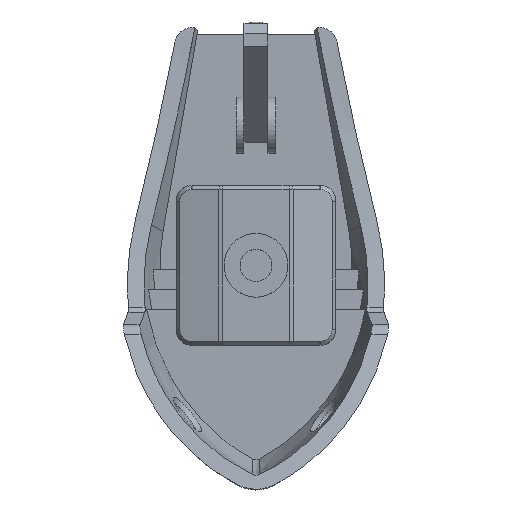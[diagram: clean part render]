
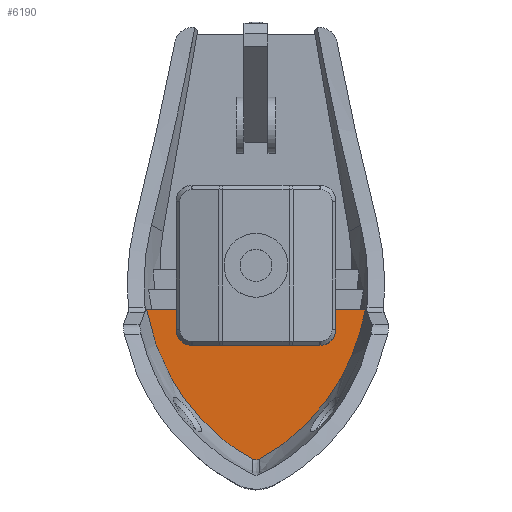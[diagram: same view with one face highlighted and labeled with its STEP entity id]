
A CAD part, top view. The second image highlights one B-rep face of the part: STEP entity #6190.
In plain terms, the highlighted planar face has unit normal (0, 0, 1).
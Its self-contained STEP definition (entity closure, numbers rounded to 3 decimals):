
#357=PLANE('',#6616);
#713=LINE('',#10777,#1172);
#722=LINE('',#10797,#1181);
#750=LINE('',#10879,#1209);
#751=LINE('',#10903,#1210);
#752=LINE('',#10905,#1211);
#753=LINE('',#10907,#1212);
#754=LINE('',#10908,#1213);
#1172=VECTOR('',#7370,10.);
#1181=VECTOR('',#7385,10.);
#1209=VECTOR('',#7451,10.);
#1210=VECTOR('',#7452,10.);
#1211=VECTOR('',#7453,10.);
#1212=VECTOR('',#7454,10.);
#1213=VECTOR('',#7455,10.);
#1596=FACE_OUTER_BOUND('',#1965,.T.);
#1965=EDGE_LOOP('',(#4558,#4559,#4560,#4561,#4562,#4563,#4564,#4565,#4566,
#4567));
#2278=B_SPLINE_CURVE_WITH_KNOTS('',3,(#9517,#9518,#9519,#9520,#9521,#9522,
#9523,#9524,#9525,#9526,#9527),.UNSPECIFIED.,.F.,.F.,(4,2,2,3,4),(0.133,
0.242,0.547,0.875,0.925),
 .UNSPECIFIED.);
#2295=B_SPLINE_CURVE_WITH_KNOTS('',3,(#9924,#9925,#9926,#9927,#9928,#9929,
#9930,#9931,#9932,#9933,#9934,#9935,#9936,#9937,#9938),.UNSPECIFIED.,.F.,
 .F.,(4,3,2,2,2,2,4),(1.135,1.29,2.146,
3.075,3.442,3.5,3.525),
 .UNSPECIFIED.);
#2338=B_SPLINE_CURVE_WITH_KNOTS('',3,(#10880,#10881,#10882,#10883,#10884,
#10885,#10886,#10887,#10888,#10889,#10890,#10891,#10892,#10893,#10894,#10895,
#10896,#10897,#10898,#10899,#10900,#10901),.UNSPECIFIED.,.F.,.F.,(4,3,3,
3,3,3,3,4),(0.,0.013,0.027,0.037,
0.051,0.064,0.078,0.092),
 .UNSPECIFIED.);
#2532=VERTEX_POINT('',#9511);
#2533=VERTEX_POINT('',#9516);
#2549=VERTEX_POINT('',#9916);
#2550=VERTEX_POINT('',#9923);
#2690=VERTEX_POINT('',#10774);
#2691=VERTEX_POINT('',#10776);
#2699=VERTEX_POINT('',#10795);
#2735=VERTEX_POINT('',#10902);
#2736=VERTEX_POINT('',#10904);
#2737=VERTEX_POINT('',#10906);
#3152=EDGE_CURVE('',#2533,#2532,#2278,.T.);
#3171=EDGE_CURVE('',#2550,#2549,#2295,.T.);
#3375=EDGE_CURVE('',#2691,#2690,#713,.T.);
#3386=EDGE_CURVE('',#2690,#2699,#722,.T.);
#3427=EDGE_CURVE('',#2550,#2699,#750,.T.);
#3428=EDGE_CURVE('',#2549,#2533,#2338,.T.);
#3429=EDGE_CURVE('',#2735,#2532,#751,.T.);
#3430=EDGE_CURVE('',#2735,#2736,#752,.T.);
#3431=EDGE_CURVE('',#2736,#2737,#753,.T.);
#3432=EDGE_CURVE('',#2737,#2691,#754,.T.);
#4558=ORIENTED_EDGE('',*,*,#3386,.T.);
#4559=ORIENTED_EDGE('',*,*,#3427,.F.);
#4560=ORIENTED_EDGE('',*,*,#3171,.T.);
#4561=ORIENTED_EDGE('',*,*,#3428,.T.);
#4562=ORIENTED_EDGE('',*,*,#3152,.T.);
#4563=ORIENTED_EDGE('',*,*,#3429,.F.);
#4564=ORIENTED_EDGE('',*,*,#3430,.T.);
#4565=ORIENTED_EDGE('',*,*,#3431,.T.);
#4566=ORIENTED_EDGE('',*,*,#3432,.T.);
#4567=ORIENTED_EDGE('',*,*,#3375,.T.);
#6190=ADVANCED_FACE('',(#1596),#357,.F.);
#6616=AXIS2_PLACEMENT_3D('',#10878,#7449,#7450);
#7370=DIRECTION('',(-0.707,0.707,0.));
#7385=DIRECTION('',(0.,1.,0.));
#7449=DIRECTION('center_axis',(0.,0.,-1.));
#7450=DIRECTION('ref_axis',(0.,1.,0.));
#7451=DIRECTION('',(1.,0.,0.));
#7452=DIRECTION('',(1.,0.,0.));
#7453=DIRECTION('',(0.,-1.,0.));
#7454=DIRECTION('',(-0.707,-0.707,0.));
#7455=DIRECTION('',(-1.,0.,0.));
#9511=CARTESIAN_POINT('',(13.687,-5.5,15.));
#9516=CARTESIAN_POINT('',(0.438,-24.171,15.));
#9517=CARTESIAN_POINT('Ctrl Pts',(0.438,-24.171,15.));
#9518=CARTESIAN_POINT('Ctrl Pts',(0.82,-23.968,15.));
#9519=CARTESIAN_POINT('Ctrl Pts',(1.575,-23.556,15.));
#9520=CARTESIAN_POINT('Ctrl Pts',(5.144,-21.161,15.));
#9521=CARTESIAN_POINT('Ctrl Pts',(7.403,-18.892,15.));
#9522=CARTESIAN_POINT('Ctrl Pts',(11.154,-13.476,15.));
#9523=CARTESIAN_POINT('Ctrl Pts',(12.549,-10.317,15.));
#9524=CARTESIAN_POINT('Ctrl Pts',(13.361,-7.,15.));
#9525=CARTESIAN_POINT('Ctrl Pts',(13.483,-6.503,15.));
#9526=CARTESIAN_POINT('Ctrl Pts',(13.592,-6.003,15.));
#9527=CARTESIAN_POINT('Ctrl Pts',(13.687,-5.5,15.));
#9916=CARTESIAN_POINT('',(-0.438,-24.171,15.));
#9923=CARTESIAN_POINT('',(-13.687,-5.5,15.));
#9924=CARTESIAN_POINT('Ctrl Pts',(-13.687,-5.5,15.));
#9925=CARTESIAN_POINT('Ctrl Pts',(-13.592,-6.003,15.));
#9926=CARTESIAN_POINT('Ctrl Pts',(-13.483,-6.503,15.));
#9927=CARTESIAN_POINT('Ctrl Pts',(-13.361,-7.,15.));
#9928=CARTESIAN_POINT('Ctrl Pts',(-12.688,-9.748,15.));
#9929=CARTESIAN_POINT('Ctrl Pts',(-11.614,-12.392,15.));
#9930=CARTESIAN_POINT('Ctrl Pts',(-8.57,-17.457,15.));
#9931=CARTESIAN_POINT('Ctrl Pts',(-6.547,-19.809,15.));
#9932=CARTESIAN_POINT('Ctrl Pts',(-3.199,-22.485,15.));
#9933=CARTESIAN_POINT('Ctrl Pts',(-2.197,-23.171,15.));
#9934=CARTESIAN_POINT('Ctrl Pts',(-0.983,-23.872,
15.));
#9935=CARTESIAN_POINT('Ctrl Pts',(-0.817,-23.966,
15.));
#9936=CARTESIAN_POINT('Ctrl Pts',(-0.578,-24.096,
15.));
#9937=CARTESIAN_POINT('Ctrl Pts',(-0.508,-24.134,
15.));
#9938=CARTESIAN_POINT('Ctrl Pts',(-0.438,-24.171,
15.));
#10774=CARTESIAN_POINT('',(-6.809,-5.811,15.));
#10776=CARTESIAN_POINT('',(-5.805,-6.815,15.));
#10777=CARTESIAN_POINT('',(1.191,-13.811,15.));
#10795=CARTESIAN_POINT('',(-6.809,-5.5,15.));
#10797=CARTESIAN_POINT('',(-6.809,-15.,15.));
#10878=CARTESIAN_POINT('Origin',(0.,-30.,
15.));
#10879=CARTESIAN_POINT('',(0.,-5.5,15.));
#10880=CARTESIAN_POINT('Ctrl Pts',(-0.438,-24.171,
15.));
#10881=CARTESIAN_POINT('Ctrl Pts',(-0.398,-24.192,
15.));
#10882=CARTESIAN_POINT('Ctrl Pts',(-0.358,-24.21,
15.));
#10883=CARTESIAN_POINT('Ctrl Pts',(-0.316,-24.225,
15.));
#10884=CARTESIAN_POINT('Ctrl Pts',(-0.274,-24.24,
15.));
#10885=CARTESIAN_POINT('Ctrl Pts',(-0.232,-24.251,
15.));
#10886=CARTESIAN_POINT('Ctrl Pts',(-0.188,-24.26,
15.));
#10887=CARTESIAN_POINT('Ctrl Pts',(-0.154,-24.267,15.001));
#10888=CARTESIAN_POINT('Ctrl Pts',(-0.119,-24.272,
15.001));
#10889=CARTESIAN_POINT('Ctrl Pts',(-0.083,-24.276,
15.001));
#10890=CARTESIAN_POINT('Ctrl Pts',(-0.039,-24.28,
15.001));
#10891=CARTESIAN_POINT('Ctrl Pts',(0.006,-24.28,
15.001));
#10892=CARTESIAN_POINT('Ctrl Pts',(0.051,-24.278,
15.001));
#10893=CARTESIAN_POINT('Ctrl Pts',(0.095,-24.276,
15.001));
#10894=CARTESIAN_POINT('Ctrl Pts',(0.14,-24.27,
15.001));
#10895=CARTESIAN_POINT('Ctrl Pts',(0.184,-24.261,
15.));
#10896=CARTESIAN_POINT('Ctrl Pts',(0.228,-24.252,
15.));
#10897=CARTESIAN_POINT('Ctrl Pts',(0.272,-24.24,
15.));
#10898=CARTESIAN_POINT('Ctrl Pts',(0.314,-24.225,
15.));
#10899=CARTESIAN_POINT('Ctrl Pts',(0.356,-24.21,
15.));
#10900=CARTESIAN_POINT('Ctrl Pts',(0.398,-24.192,
15.));
#10901=CARTESIAN_POINT('Ctrl Pts',(0.438,-24.171,
15.));
#10902=CARTESIAN_POINT('',(6.809,-5.5,15.));
#10903=CARTESIAN_POINT('',(0.,-5.5,15.));
#10904=CARTESIAN_POINT('',(6.809,-5.811,15.));
#10905=CARTESIAN_POINT('',(6.809,-15.,15.));
#10906=CARTESIAN_POINT('',(5.805,-6.815,15.));
#10907=CARTESIAN_POINT('',(-1.191,-13.811,15.));
#10908=CARTESIAN_POINT('',(0.,-6.815,15.));
